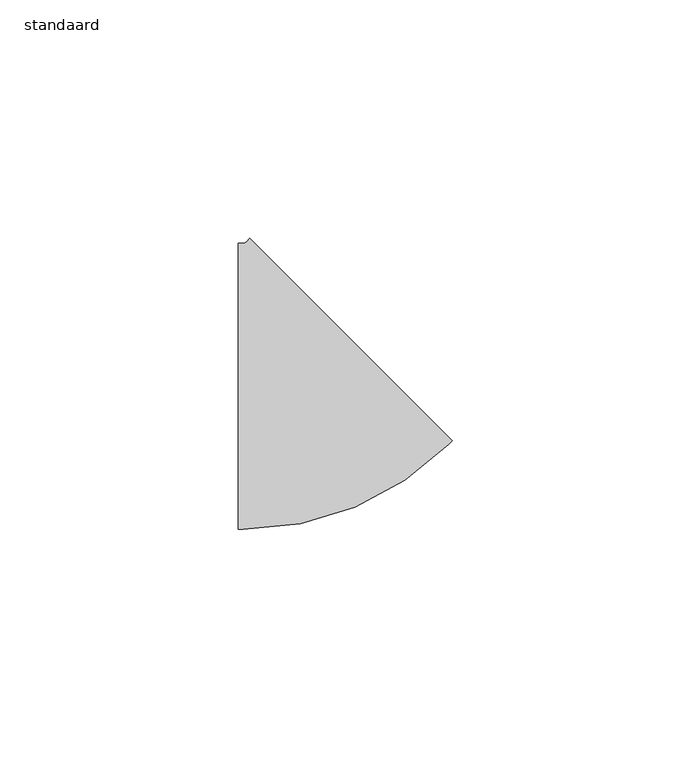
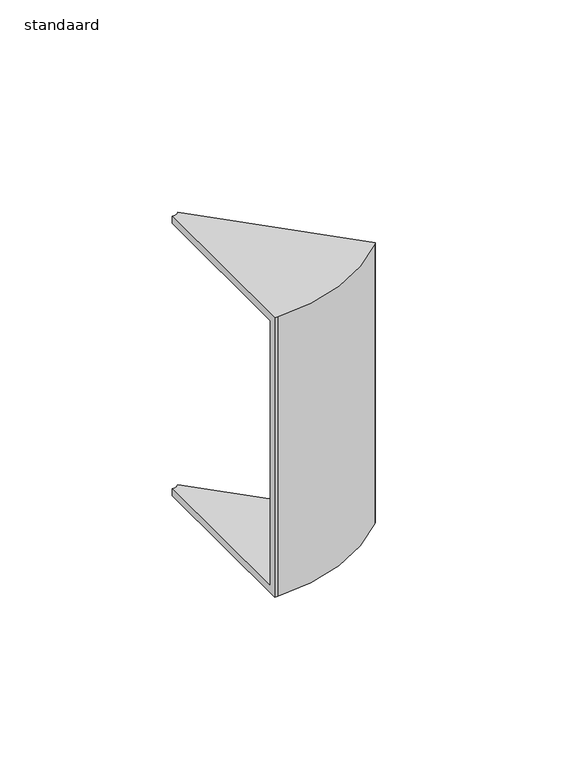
"""IFC4 building model written with IfcOpenShell, lengths in millimetres: cable carrier fitting geometry, AI_Raccord cdc_Coude montant : standaard."""

from ifc_helpers import new_model, si_unit, frame, origin, place, context, project, spatial, polyline, circle_curve, source, transform, mapped, element, save
from ifc_brep_helpers import plane_surface, cylinder_surface, revolved_surface, advanced_brep


def standaard_15b901d2(model_context):
    return source(origin(), model_context, "Body", "AdvancedBrep", [
        advanced_brep(
        [(-13.8406204, 30.0, 50.0), (-13.8406204, 30.0, 47.46), (-13.8406204, -27.46, 47.46), (-13.8406204, -27.46, -47.46), (-13.8406204, 30.0, -47.46), (-13.8406204, 30.0, -50.0), (-13.8406204, -30.0, -50.0), (-13.8406204, -30.0, 50.0), (-11.4264069, 31.0, 50.0), (31.0, -11.4264069, 50.0), (31.0, -11.4264069, -50.0), (-11.4264069, 31.0, -50.0), (-11.4264069, 31.0, -47.46), (29.2039488, -9.6303557, -47.46), (29.2039488, -9.6303557, 47.46), (-11.4264069, 31.0, 47.46), (-12.8406204, -30.0, 50.0), (30.2928932, -12.1335137, 50.0), (-12.1335137, 30.2928932, 50.0), (-12.8406204, 30.0, 50.0), (-12.8406204, -30.0, -50.0), (-12.8406204, 30.0, -50.0), (-12.1335137, 30.2928932, -50.0), (30.2928932, -12.1335137, -50.0), (-12.8406204, 30.0, -47.46), (-12.8406204, -27.46, -47.46), (28.496842, -10.3374624, -47.46), (-12.1335137, 30.2928932, -47.46), (-12.8406204, -27.46, 47.46), (-12.8406204, 30.0, 47.46), (-12.1335137, 30.2928932, 47.46), (28.496842, -10.3374624, 47.46)],
        [
            (0, 1),
            (1, 2),
            (2, 3),
            (3, 4),
            (4, 5),
            (5, 6),
            (6, 7),
            (7, 0),
            (8, 9),
            (9, 10),
            (10, 11),
            (11, 12),
            (12, 13),
            (13, 14),
            (14, 15),
            (15, 8),
            (7, 16),
            (16, 17, circle_curve(frame((-12.8406204, 31.0, 50.0), z_axis=(0.0, 0.0, 1.0), x_axis=(0.0, -1.0, 0.0)), 61.0)),
            (17, 9),
            (8, 18),
            (18, 19, circle_curve(frame((-12.8406204, 31.0, 50.0), z_axis=(0.0, 0.0, -1.0), x_axis=(0.0, -1.0, 0.0)), 1.0)),
            (19, 0),
            (6, 20),
            (20, 16),
            (5, 21),
            (21, 22, circle_curve(frame((-12.8406204, 31.0, -50.0), z_axis=(0.0, 0.0, 1.0), x_axis=(0.0, -1.0, 0.0)), 1.0)),
            (22, 11),
            (10, 23),
            (23, 20, circle_curve(frame((-12.8406204, 31.0, -50.0), z_axis=(0.0, 0.0, -1.0), x_axis=(0.0, -1.0, 0.0)), 61.0)),
            (4, 24),
            (24, 21),
            (3, 25),
            (25, 26, circle_curve(frame((-12.8406204, 31.0, -47.46), z_axis=(0.0, 0.0, 1.0), x_axis=(0.0, -1.0, 0.0)), 58.46)),
            (26, 13),
            (12, 27),
            (27, 24, circle_curve(frame((-12.8406204, 31.0, -47.46), z_axis=(0.0, 0.0, -1.0), x_axis=(0.0, -1.0, 0.0)), 1.0)),
            (2, 28),
            (28, 25),
            (1, 29),
            (29, 30, circle_curve(frame((-12.8406204, 31.0, 47.46), z_axis=(0.0, 0.0, 1.0), x_axis=(0.0, -1.0, 0.0)), 1.0)),
            (30, 15),
            (14, 31),
            (31, 28, circle_curve(frame((-12.8406204, 31.0, 47.46), z_axis=(0.0, 0.0, -1.0), x_axis=(0.0, -1.0, 0.0)), 58.46)),
            (19, 29),
            (23, 17),
            (27, 22),
            (31, 26),
            (18, 30),
        ],
        [
            plane_surface(frame((-13.8406204, 0.0, 0.0), z_axis=(-1.0, -4.915201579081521e-12, 0.0), x_axis=(0.0, 0.0, 1.0))),
            plane_surface(frame((9.7867966, 9.7867966, 0.0), z_axis=(0.7071067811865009, 0.7071067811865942, 0.0), x_axis=(0.0, 0.0, 1.0))),
            plane_surface(frame((-13.8406204, -30.0, 50.0), z_axis=(0.0, 0.0, 1.0), x_axis=(1.0, 4.906741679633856e-12, 0.0))),
            plane_surface(frame((-13.8406204, -30.0, -50.0), z_axis=(4.906741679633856e-12, -1.0, 0.0), x_axis=(1.0, 4.906741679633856e-12, 0.0))),
            plane_surface(frame((-13.8406204, 30.0, -50.0), z_axis=(0.0, 0.0, -1.0), x_axis=(1.0, 4.91520157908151e-12, 0.0))),
            plane_surface(frame((-13.8406204, 30.0, -47.46), z_axis=(-4.91520157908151e-12, 1.0, 0.0), x_axis=(1.0, 4.91520157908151e-12, 0.0))),
            plane_surface(frame((-13.8406204, -27.46, -47.46), z_axis=(0.0, 0.0, 1.0), x_axis=(1.0, 4.9152015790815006e-12, 0.0))),
            plane_surface(frame((-13.8406204, -27.46, 47.46), z_axis=(-4.9152015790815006e-12, 1.0, 0.0), x_axis=(1.0, 4.9152015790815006e-12, 0.0))),
            plane_surface(frame((-13.8406204, 30.0, 47.46), z_axis=(0.0, 0.0, -1.0), x_axis=(1.0, 4.91520157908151e-12, 0.0))),
            plane_surface(frame((-13.8406204, 30.0, 50.0), z_axis=(-4.91520157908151e-12, 1.0, 0.0), x_axis=(1.0, 4.91520157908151e-12, 0.0))),
            cylinder_surface(frame((-12.8406204, 31.0, 0.0), z_axis=(0.0, 0.0, 1.0), x_axis=(0.0, -1.0, 0.0)), 61.0),
            revolved_surface(polyline([(-12.8406204, 30.0, -47.46), (-12.8406204, 30.0, -50.0)]), (-12.8406204, 31.0, 0.0), (0.0, 0.0, 1.0)),
            revolved_surface(polyline([(-12.8406204, -27.46, 47.46), (-12.8406204, -27.46, -47.46)]), (-12.8406204, 31.0, 0.0), (0.0, 0.0, 1.0)),
            revolved_surface(polyline([(-12.8406204, 30.0, 50.0), (-12.8406204, 30.0, 47.46)]), (-12.8406204, 31.0, 0.0), (0.0, 0.0, 1.0)),
            plane_surface(frame((30.2928932, -12.1335137, -50.0), z_axis=(0.7071067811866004, -0.7071067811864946, 0.0), x_axis=(0.7071067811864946, 0.7071067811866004, 0.0))),
            plane_surface(frame((-12.1335137, 30.2928932, -47.46), z_axis=(-0.7071067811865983, 0.7071067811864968, 0.0), x_axis=(0.7071067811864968, 0.7071067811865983, 0.0))),
            plane_surface(frame((28.496842, -10.3374624, 47.46), z_axis=(-0.7071067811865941, 0.707106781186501, 0.0), x_axis=(0.707106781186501, 0.7071067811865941, 0.0))),
            plane_surface(frame((-12.1335137, 30.2928932, 50.0), z_axis=(-0.7071067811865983, 0.7071067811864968, 0.0), x_axis=(0.7071067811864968, 0.7071067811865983, 0.0))),
        ],
        [
            (0, [[1, 2, 3, 4, 5, 6, 7, 8]]),
            (1, [[9, 10, 11, 12, 13, 14, 15, 16]]),
            (2, [[-8, 17, 18, 19, -9, 20, 21, 22]]),
            (3, [[-7, 23, 24, -17]]),
            (4, [[-6, 25, 26, 27, -11, 28, 29, -23]]),
            (5, [[-5, 30, 31, -25]]),
            (6, [[-4, 32, 33, 34, -13, 35, 36, -30]]),
            (7, [[-3, 37, 38, -32]]),
            (8, [[-2, 39, 40, 41, -15, 42, 43, -37]]),
            (9, [[-1, -22, 44, -39]]),
            (10, [[-18, -24, -29, 45]]),
            (11, [[-26, -31, -36, 46]]),
            (12, [[-33, -38, -43, 47]]),
            (13, [[-40, -44, -21, 48]]),
            (14, [[-45, -28, -10, -19]]),
            (15, [[-46, -35, -12, -27]]),
            (16, [[-47, -42, -14, -34]]),
            (17, [[-48, -20, -16, -41]]),
        ],
    ),
    ])


if __name__ == "__main__":
    model = new_model("IFC4")
    model_context = context("Model", 3, world=origin())
    ifc_project = project(units=[si_unit("LENGTHUNIT", "METRE", prefix="MILLI")], contexts=[model_context])
    site = spatial("IfcSite", under=ifc_project)
    building = spatial("IfcBuilding", under=site)
    placement = place(None, origin())
    standaard_shape = standaard_15b901d2(model_context)
    element("IfcCableCarrierFitting", 1, ObjectType="AI_Raccord cdc_Coude montant : standaard", at=placement, inside=building, context=model_context, shape_type="MappedRepresentation", body=[
        mapped(standaard_shape, transform((0.0, 0.0, 0.0), x_axis=(1.0, 0.0, 0.0), y_axis=(0.0, 1.0, 0.0), z_axis=(0.0, 0.0, 1.0))),
    ])
    save(model, "model.ifc")
